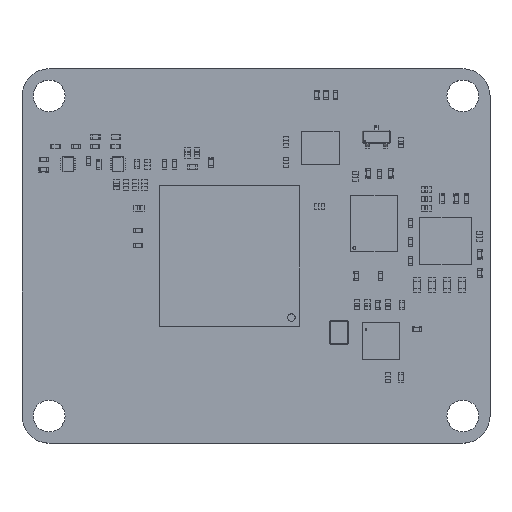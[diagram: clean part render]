
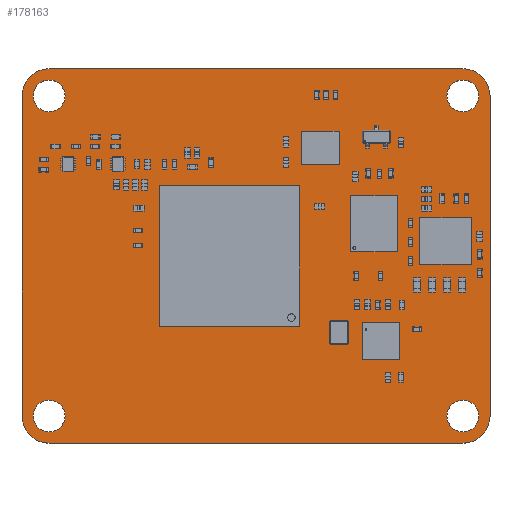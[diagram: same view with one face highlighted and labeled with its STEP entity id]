
A CAD part, top view. The second image highlights one B-rep face of the part: STEP entity #178163.
In plain terms, the highlighted planar face has unit normal (0, 0, 1).
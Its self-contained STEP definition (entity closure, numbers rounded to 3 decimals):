
#177970 = VERTEX_POINT('',#177971);
#177971 = CARTESIAN_POINT('',(22.1,20.,1.51));
#177977 = EDGE_CURVE('',#177970,#177978,#177980,.T.);
#177978 = VERTEX_POINT('',#177979);
#177979 = CARTESIAN_POINT('',(25.,17.1,1.51));
#177980 = CIRCLE('',#177981,2.9);
#177981 = AXIS2_PLACEMENT_3D('',#177982,#177983,#177984);
#177982 = CARTESIAN_POINT('',(22.1,17.1,1.51));
#177983 = DIRECTION('',(0.,0.,-1.));
#177984 = DIRECTION('',(0.,1.,0.));
#178012 = VERTEX_POINT('',#178013);
#178013 = CARTESIAN_POINT('',(-22.1,20.,1.51));
#178019 = EDGE_CURVE('',#178012,#177970,#178020,.T.);
#178020 = LINE('',#178021,#178022);
#178021 = CARTESIAN_POINT('',(-22.1,20.,1.51));
#178022 = VECTOR('',#178023,1.);
#178023 = DIRECTION('',(1.,0.,0.));
#178041 = EDGE_CURVE('',#177978,#178042,#178044,.T.);
#178042 = VERTEX_POINT('',#178043);
#178043 = CARTESIAN_POINT('',(25.,-17.1,1.51));
#178044 = LINE('',#178045,#178046);
#178045 = CARTESIAN_POINT('',(25.,17.1,1.51));
#178046 = VECTOR('',#178047,1.);
#178047 = DIRECTION('',(0.,-1.,0.));
#178163 = ADVANCED_FACE('',(#178164,#178210,#178221,#178232,#178243),
  #178254,.T.);
#178164 = FACE_BOUND('',#178165,.T.);
#178165 = EDGE_LOOP('',(#178166,#178167,#178168,#178177,#178185,#178194,
    #178202,#178209));
#178166 = ORIENTED_EDGE('',*,*,#177977,.F.);
#178167 = ORIENTED_EDGE('',*,*,#178019,.F.);
#178168 = ORIENTED_EDGE('',*,*,#178169,.F.);
#178169 = EDGE_CURVE('',#178170,#178012,#178172,.T.);
#178170 = VERTEX_POINT('',#178171);
#178171 = CARTESIAN_POINT('',(-25.,17.1,1.51));
#178172 = CIRCLE('',#178173,2.9);
#178173 = AXIS2_PLACEMENT_3D('',#178174,#178175,#178176);
#178174 = CARTESIAN_POINT('',(-22.1,17.1,1.51));
#178175 = DIRECTION('',(0.,0.,-1.));
#178176 = DIRECTION('',(-1.,0.,-0.));
#178177 = ORIENTED_EDGE('',*,*,#178178,.F.);
#178178 = EDGE_CURVE('',#178179,#178170,#178181,.T.);
#178179 = VERTEX_POINT('',#178180);
#178180 = CARTESIAN_POINT('',(-25.,-17.1,1.51));
#178181 = LINE('',#178182,#178183);
#178182 = CARTESIAN_POINT('',(-25.,-17.1,1.51));
#178183 = VECTOR('',#178184,1.);
#178184 = DIRECTION('',(0.,1.,0.));
#178185 = ORIENTED_EDGE('',*,*,#178186,.F.);
#178186 = EDGE_CURVE('',#178187,#178179,#178189,.T.);
#178187 = VERTEX_POINT('',#178188);
#178188 = CARTESIAN_POINT('',(-22.1,-20.,1.51));
#178189 = CIRCLE('',#178190,2.9);
#178190 = AXIS2_PLACEMENT_3D('',#178191,#178192,#178193);
#178191 = CARTESIAN_POINT('',(-22.1,-17.1,1.51));
#178192 = DIRECTION('',(0.,0.,-1.));
#178193 = DIRECTION('',(0.,-1.,0.));
#178194 = ORIENTED_EDGE('',*,*,#178195,.F.);
#178195 = EDGE_CURVE('',#178196,#178187,#178198,.T.);
#178196 = VERTEX_POINT('',#178197);
#178197 = CARTESIAN_POINT('',(22.1,-20.,1.51));
#178198 = LINE('',#178199,#178200);
#178199 = CARTESIAN_POINT('',(22.1,-20.,1.51));
#178200 = VECTOR('',#178201,1.);
#178201 = DIRECTION('',(-1.,0.,0.));
#178202 = ORIENTED_EDGE('',*,*,#178203,.F.);
#178203 = EDGE_CURVE('',#178042,#178196,#178204,.T.);
#178204 = CIRCLE('',#178205,2.9);
#178205 = AXIS2_PLACEMENT_3D('',#178206,#178207,#178208);
#178206 = CARTESIAN_POINT('',(22.1,-17.1,1.51));
#178207 = DIRECTION('',(0.,0.,-1.));
#178208 = DIRECTION('',(1.,0.,0.));
#178209 = ORIENTED_EDGE('',*,*,#178041,.F.);
#178210 = FACE_BOUND('',#178211,.T.);
#178211 = EDGE_LOOP('',(#178212));
#178212 = ORIENTED_EDGE('',*,*,#178213,.T.);
#178213 = EDGE_CURVE('',#178214,#178214,#178216,.T.);
#178214 = VERTEX_POINT('',#178215);
#178215 = CARTESIAN_POINT('',(-22.1,-18.8,1.51));
#178216 = CIRCLE('',#178217,1.7);
#178217 = AXIS2_PLACEMENT_3D('',#178218,#178219,#178220);
#178218 = CARTESIAN_POINT('',(-22.1,-17.1,1.51));
#178219 = DIRECTION('',(-0.,0.,-1.));
#178220 = DIRECTION('',(-0.,-1.,0.));
#178221 = FACE_BOUND('',#178222,.T.);
#178222 = EDGE_LOOP('',(#178223));
#178223 = ORIENTED_EDGE('',*,*,#178224,.T.);
#178224 = EDGE_CURVE('',#178225,#178225,#178227,.T.);
#178225 = VERTEX_POINT('',#178226);
#178226 = CARTESIAN_POINT('',(22.1,-18.8,1.51));
#178227 = CIRCLE('',#178228,1.7);
#178228 = AXIS2_PLACEMENT_3D('',#178229,#178230,#178231);
#178229 = CARTESIAN_POINT('',(22.1,-17.1,1.51));
#178230 = DIRECTION('',(-0.,0.,-1.));
#178231 = DIRECTION('',(-0.,-1.,0.));
#178232 = FACE_BOUND('',#178233,.T.);
#178233 = EDGE_LOOP('',(#178234));
#178234 = ORIENTED_EDGE('',*,*,#178235,.T.);
#178235 = EDGE_CURVE('',#178236,#178236,#178238,.T.);
#178236 = VERTEX_POINT('',#178237);
#178237 = CARTESIAN_POINT('',(-22.1,15.4,1.51));
#178238 = CIRCLE('',#178239,1.7);
#178239 = AXIS2_PLACEMENT_3D('',#178240,#178241,#178242);
#178240 = CARTESIAN_POINT('',(-22.1,17.1,1.51));
#178241 = DIRECTION('',(-0.,0.,-1.));
#178242 = DIRECTION('',(-0.,-1.,0.));
#178243 = FACE_BOUND('',#178244,.T.);
#178244 = EDGE_LOOP('',(#178245));
#178245 = ORIENTED_EDGE('',*,*,#178246,.T.);
#178246 = EDGE_CURVE('',#178247,#178247,#178249,.T.);
#178247 = VERTEX_POINT('',#178248);
#178248 = CARTESIAN_POINT('',(22.1,15.4,1.51));
#178249 = CIRCLE('',#178250,1.7);
#178250 = AXIS2_PLACEMENT_3D('',#178251,#178252,#178253);
#178251 = CARTESIAN_POINT('',(22.1,17.1,1.51));
#178252 = DIRECTION('',(-0.,0.,-1.));
#178253 = DIRECTION('',(-0.,-1.,0.));
#178254 = PLANE('',#178255);
#178255 = AXIS2_PLACEMENT_3D('',#178256,#178257,#178258);
#178256 = CARTESIAN_POINT('',(0.,0.,1.51));
#178257 = DIRECTION('',(0.,0.,1.));
#178258 = DIRECTION('',(1.,0.,-0.));
